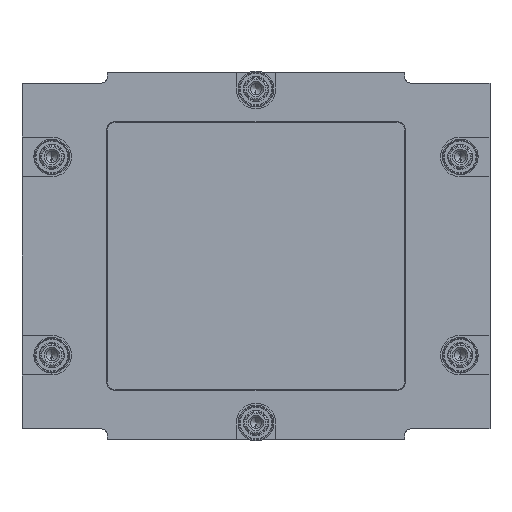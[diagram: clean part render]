
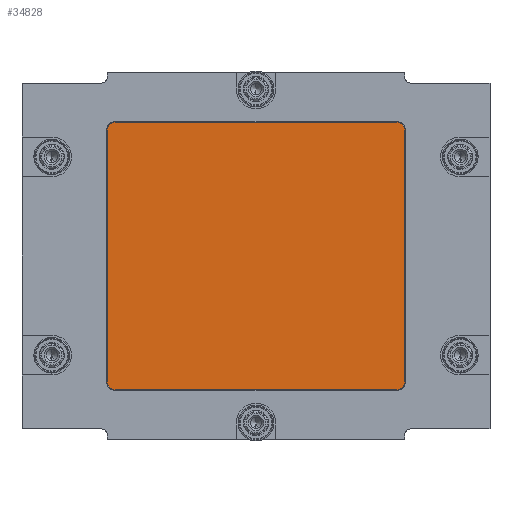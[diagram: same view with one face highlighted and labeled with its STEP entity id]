
A CAD part, front view. The second image highlights one B-rep face of the part: STEP entity #34828.
In plain terms, the highlighted planar face has unit normal (0, -1, 0).
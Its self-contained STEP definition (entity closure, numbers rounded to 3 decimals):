
#2151=DIRECTION('',(-1.,0.,0.));
#2152=VECTOR('',#2151,71.);
#2153=CARTESIAN_POINT('',(35.5,0.,33.75));
#2154=LINE('',#2153,#2152);
#9653=DIRECTION('',(0.,0.,1.));
#9654=VECTOR('',#9653,63.5);
#9655=CARTESIAN_POINT('',(37.5,0.,-31.75));
#9656=LINE('',#9655,#9654);
#9661=CARTESIAN_POINT('',(35.5,0.,31.75));
#9662=DIRECTION('',(0.,1.,0.));
#9663=DIRECTION('',(0.,0.,1.));
#9664=AXIS2_PLACEMENT_3D('',#9661,#9662,#9663);
#9666=CARTESIAN_POINT('',(35.5,0.,-31.75));
#9667=DIRECTION('',(0.,1.,0.));
#9668=DIRECTION('',(1.,0.,0.));
#9669=AXIS2_PLACEMENT_3D('',#9666,#9667,#9668);
#9671=DIRECTION('',(-1.,0.,0.));
#9672=VECTOR('',#9671,71.);
#9673=CARTESIAN_POINT('',(35.5,0.,-33.75));
#9674=LINE('',#9673,#9672);
#9675=CARTESIAN_POINT('',(-35.5,0.,-31.75));
#9676=DIRECTION('',(0.,1.,0.));
#9677=DIRECTION('',(0.,0.,-1.));
#9678=AXIS2_PLACEMENT_3D('',#9675,#9676,#9677);
#9680=DIRECTION('',(0.,0.,1.));
#9681=VECTOR('',#9680,63.5);
#9682=CARTESIAN_POINT('',(-37.5,0.,-31.75));
#9683=LINE('',#9682,#9681);
#9684=CARTESIAN_POINT('',(-35.5,0.,31.75));
#9685=DIRECTION('',(0.,1.,0.));
#9686=DIRECTION('',(-1.,0.,0.));
#9687=AXIS2_PLACEMENT_3D('',#9684,#9685,#9686);
#17182=CARTESIAN_POINT('',(-35.5,0.,-33.75));
#17183=VERTEX_POINT('',#17182);
#17184=CARTESIAN_POINT('',(35.5,0.,-33.75));
#17185=VERTEX_POINT('',#17184);
#18863=CARTESIAN_POINT('',(35.5,0.,33.75));
#18864=VERTEX_POINT('',#18863);
#18865=CARTESIAN_POINT('',(-35.5,0.,33.75));
#18866=VERTEX_POINT('',#18865);
#19123=CARTESIAN_POINT('',(37.5,0.,-31.75));
#19125=VERTEX_POINT('',#19123);
#19127=CARTESIAN_POINT('',(37.5,0.,31.75));
#19128=VERTEX_POINT('',#19127);
#19133=CARTESIAN_POINT('',(-37.5,0.,-31.75));
#19134=VERTEX_POINT('',#19133);
#19135=CARTESIAN_POINT('',(-37.5,0.,31.75));
#19136=VERTEX_POINT('',#19135);
#34809=CARTESIAN_POINT('',(0.,0.,0.));
#34810=DIRECTION('',(0.,1.,0.));
#34811=DIRECTION('',(0.,0.,1.));
#34812=AXIS2_PLACEMENT_3D('',#34809,#34810,#34811);
#34813=PLANE('',#34812);
#34814=ORIENTED_EDGE('',*,*,#22780,.F.);
#34816=ORIENTED_EDGE('',*,*,#34815,.T.);
#34817=ORIENTED_EDGE('',*,*,#34797,.F.);
#34818=ORIENTED_EDGE('',*,*,#34787,.T.);
#34819=ORIENTED_EDGE('',*,*,#20730,.T.);
#34821=ORIENTED_EDGE('',*,*,#34820,.T.);
#34823=ORIENTED_EDGE('',*,*,#34822,.T.);
#34825=ORIENTED_EDGE('',*,*,#34824,.T.);
#34826=EDGE_LOOP('',(#34814,#34816,#34817,#34818,#34819,#34821,#34823,#34825));
#34827=FACE_OUTER_BOUND('',#34826,.F.);
#34828=ADVANCED_FACE('',(#34827),#34813,.F.);
#9665=CIRCLE('',#9664,2.);
#9670=CIRCLE('',#9669,2.);
#9679=CIRCLE('',#9678,2.);
#9688=CIRCLE('',#9687,2.);
#20730=EDGE_CURVE('',#17185,#17183,#9674,.T.);
#22780=EDGE_CURVE('',#18864,#18866,#2154,.T.);
#34787=EDGE_CURVE('',#19125,#17185,#9670,.T.);
#34797=EDGE_CURVE('',#19125,#19128,#9656,.T.);
#34815=EDGE_CURVE('',#18864,#19128,#9665,.T.);
#34820=EDGE_CURVE('',#17183,#19134,#9679,.T.);
#34822=EDGE_CURVE('',#19134,#19136,#9683,.T.);
#34824=EDGE_CURVE('',#19136,#18866,#9688,.T.);
